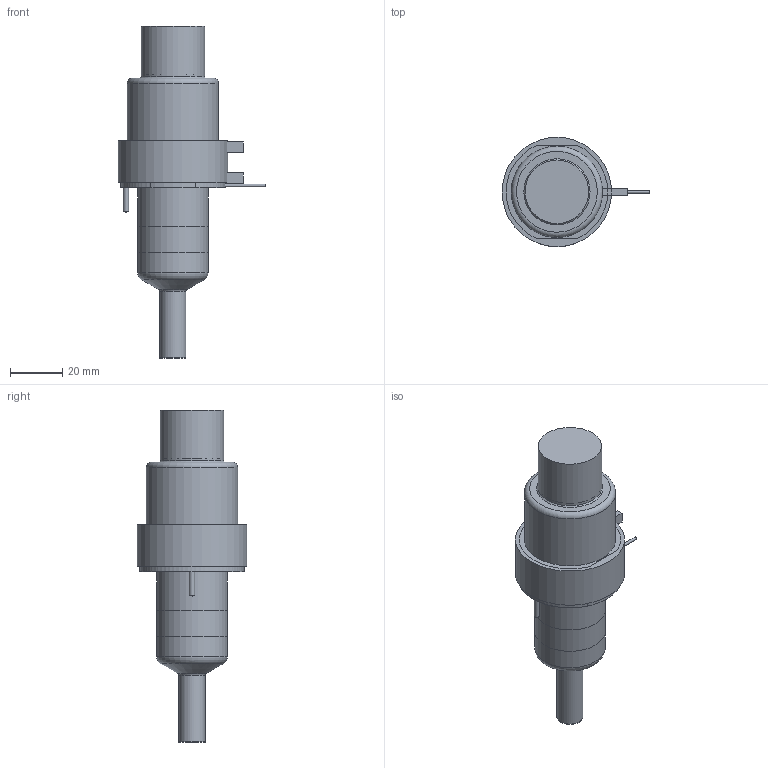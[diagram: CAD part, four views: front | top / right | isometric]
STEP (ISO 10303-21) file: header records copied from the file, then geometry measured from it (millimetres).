
FILE_DESCRIPTION(/* description */ (''),/* implementation_level */ '2;1');
FILE_NAME(/* name */ 'SXTSX-SXISX-SXOSX13045_200C_b',/* time_stamp */ '2008-04-30T09:07:06+12:00',/* author */ (''),/* organization */ (''),/* preprocessor_version */ 'ST-DEVELOPER v9',/* originating_system */ 'UGS - NX 4.0',/* authorisation */ '');
FILE_SCHEMA (('CONFIG_CONTROL_DESIGN'));
Length unit declared in the file: millimetre
Products named in the file (1): SXTSX-SXISX-SXOSX13045_200C_b
Bounding box: 56.65 x 42 x 127.37 mm (x, y, z)
Volume: 141983 mm3; surface area: 26775.2 mm2
Topology: 7 solids, 7 shells, 92 faces, 180 edges, 116 vertices
Faces by surface type: plane 45, cylinder 28, torus 9, cone 9, bspline 1
Full cylindrical faces by diameter (mm): 0.9 x1, 1 x3, 2 x2, 6 x1, 9.61 x1, 10.01 x2, 12.6 x1, 22.2 x1, 24 x1, 24.4 x1, 27 x2, 31.8 x1, 35 x1, 40 x1, 42 x1
Entity records: 2250 total; most frequent: CARTESIAN_POINT 438, DIRECTION 382, ORIENTED_EDGE 268, AXIS2_PLACEMENT_3D 166, EDGE_LOOP 142, EDGE_CURVE 134, VERTEX_POINT 107, ADVANCED_FACE 92
